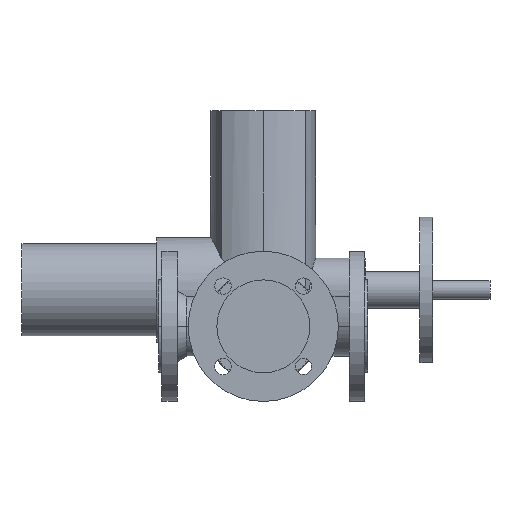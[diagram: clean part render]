
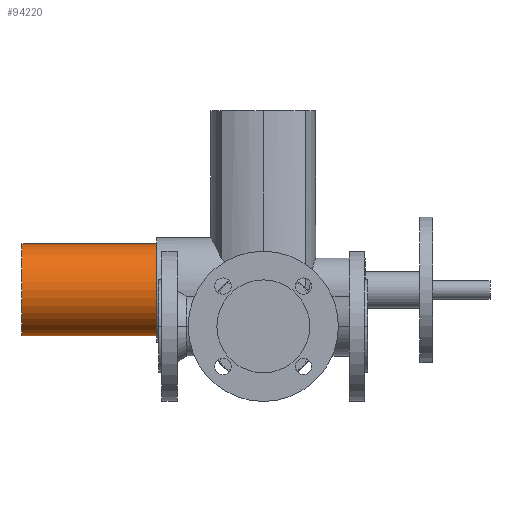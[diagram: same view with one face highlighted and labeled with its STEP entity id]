
A CAD part, front view. The second image highlights one B-rep face of the part: STEP entity #94220.
In plain terms, the highlighted cylindrical face has radius 50.5 mm (diameter 101 mm), a partial arc.
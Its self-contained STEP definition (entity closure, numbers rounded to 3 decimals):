
#53690=CARTESIAN_POINT('',(-76.,607.5,40.));
#53700=DIRECTION('',(1.,0.,0.));
#53710=DIRECTION('',(0.,0.,-1.));
#53720=AXIS2_PLACEMENT_3D('',#53690,#53700,#53710);
#53730=CYLINDRICAL_SURFACE('',#53720,50.5);
#53740=CARTESIAN_POINT('',(-76.,607.5,90.5));
#53750=DIRECTION('',(1.,0.,0.));
#53760=VECTOR('',#53750,1.);
#53770=LINE('',#53740,#53760);
#53780=CARTESIAN_POINT('',(-150.,607.5,90.5));
#53790=VERTEX_POINT('',#53780);
#53800=CARTESIAN_POINT('',(-2.,607.5,90.5));
#53810=VERTEX_POINT('',#53800);
#53820=EDGE_CURVE('',#53790,#53810,#53770,.T.);
#53840=CARTESIAN_POINT('',(-150.,607.5,40.));
#53850=DIRECTION('',(-1.,0.,0.));
#53860=DIRECTION('',(0.,0.,-1.));
#53870=AXIS2_PLACEMENT_3D('',#53840,#53850,#53860);
#53880=CIRCLE('',#53870,50.5);
#53890=CARTESIAN_POINT('',(-150.,607.5,-10.5));
#53900=VERTEX_POINT('',#53890);
#53930=CARTESIAN_POINT('',(-76.,607.5,-10.5));
#53940=DIRECTION('',(1.,0.,0.));
#53950=VECTOR('',#53940,1.);
#53960=LINE('',#53930,#53950);
#53970=CARTESIAN_POINT('',(-2.,607.5,-10.5));
#53980=VERTEX_POINT('',#53970);
#53990=EDGE_CURVE('',#53900,#53980,#53960,.T.);
#54010=CARTESIAN_POINT('',(-2.,607.5,40.));
#54020=DIRECTION('',(-1.,0.,0.));
#54030=DIRECTION('',(0.,0.,-1.));
#54040=AXIS2_PLACEMENT_3D('',#54010,#54020,#54030);
#54050=CIRCLE('',#54040,50.5);
#74170=EDGE_CURVE('',#53980,#53810,#54050,.T.);
#74920=EDGE_CURVE('',#53900,#53790,#53880,.T.);
#94160=ORIENTED_EDGE('',*,*,#53820,.F.);
#94170=ORIENTED_EDGE('',*,*,#74170,.T.);
#94180=ORIENTED_EDGE('',*,*,#53990,.T.);
#94190=ORIENTED_EDGE('',*,*,#74920,.F.);
#94200=EDGE_LOOP('',(#94190,#94180,#94170,#94160));
#94210=FACE_OUTER_BOUND('',#94200,.T.);
#94220=ADVANCED_FACE('',(#94210),#53730,.T.);
